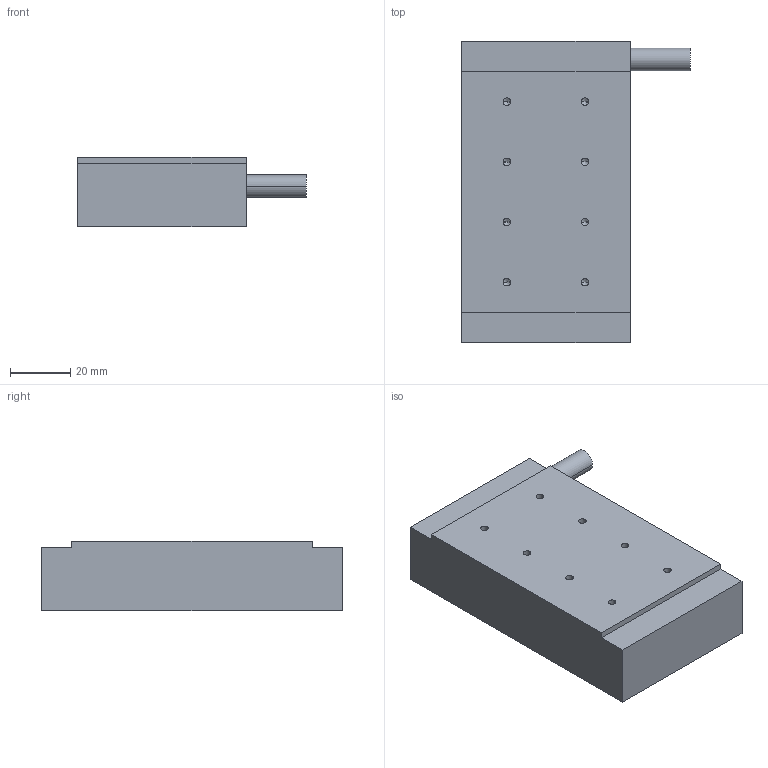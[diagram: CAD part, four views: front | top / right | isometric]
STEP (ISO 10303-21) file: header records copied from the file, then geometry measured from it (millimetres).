
FILE_DESCRIPTION (( 'STEP AP214' ), '1' );
FILE_NAME ('1-CJM080A-01.STEP', '2025-09-05T11:18:37', ( '' ), ( '' ), 'SwSTEP 2.0', 'SolidWorks 2016', '' );
FILE_SCHEMA (( 'AUTOMOTIVE_DESIGN' ));
Length unit declared in the file: millimetre
Products named in the file (1): 1-CJM080A-01
Bounding box: 76 x 100 x 23.2 mm (x, y, z)
Volume: 128210.9 mm3; surface area: 19408.1 mm2
Topology: 1 solids, 1 shells, 69 faces, 166 edges, 88 vertices
Faces by surface type: cone 32, cylinder 26, plane 11
Entity records: 2070 total; most frequent: DIRECTION 342, CARTESIAN_POINT 300, ORIENTED_EDGE 284, EDGE_CURVE 142, AXIS2_PLACEMENT_3D 130, VERTEX_POINT 88, VECTOR 82, EDGE_LOOP 82
